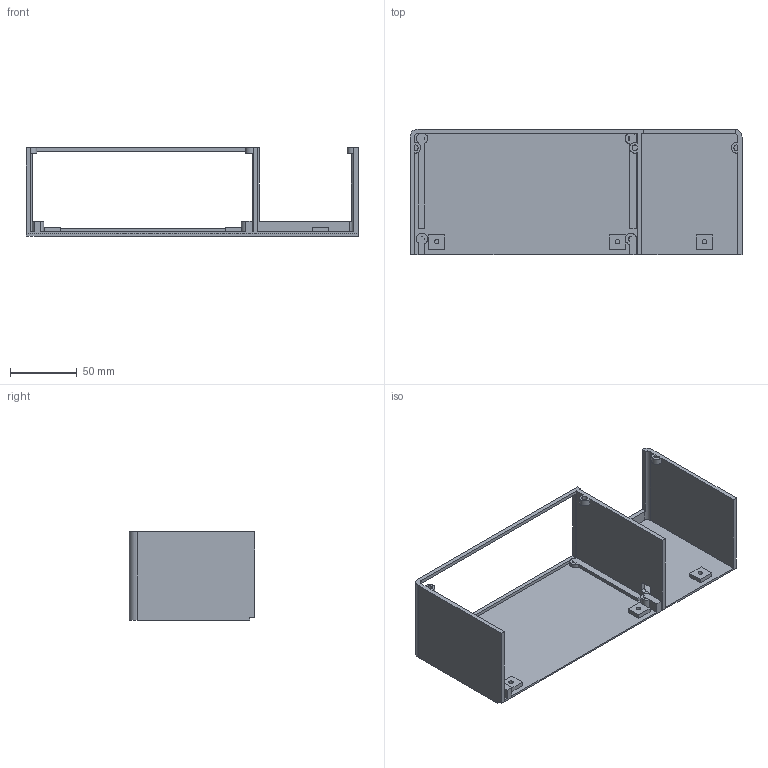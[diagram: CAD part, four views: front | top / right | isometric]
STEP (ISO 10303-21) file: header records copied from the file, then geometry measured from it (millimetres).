
FILE_DESCRIPTION(('Open CASCADE Model'),'2;1');
FILE_NAME('Open CASCADE Shape Model','2026-11-07T14:08:05',('Author'),( 'Open CASCADE'),'Open CASCADE STEP processor 7.9','Open CASCADE 7.9' ,'Unknown');
FILE_SCHEMA(('AUTOMOTIVE_DESIGN { 1 0 10303 214 1 1 1 1 }'));
Length unit declared in the file: millimetre
Products named in the file (1): Open CASCADE STEP translator 7.9 5
Bounding box: 248 x 94 x 66 mm (x, y, z)
Volume: 139006.5 mm3; surface area: 91886.4 mm2
Topology: 1 solids, 1 shells, 120 faces, 320 edges, 214 vertices
Faces by surface type: plane 90, cylinder 30
Full cylindrical faces by diameter (mm): 3.3 x3
Entity records: 7791 total; most frequent: CARTESIAN_POINT 1711, DIRECTION 1023, ORIENTED_EDGE 640, PCURVE 640, DEFINITIONAL_REPRESENTATION 640, LINE 598, VECTOR 598, EDGE_CURVE 320
